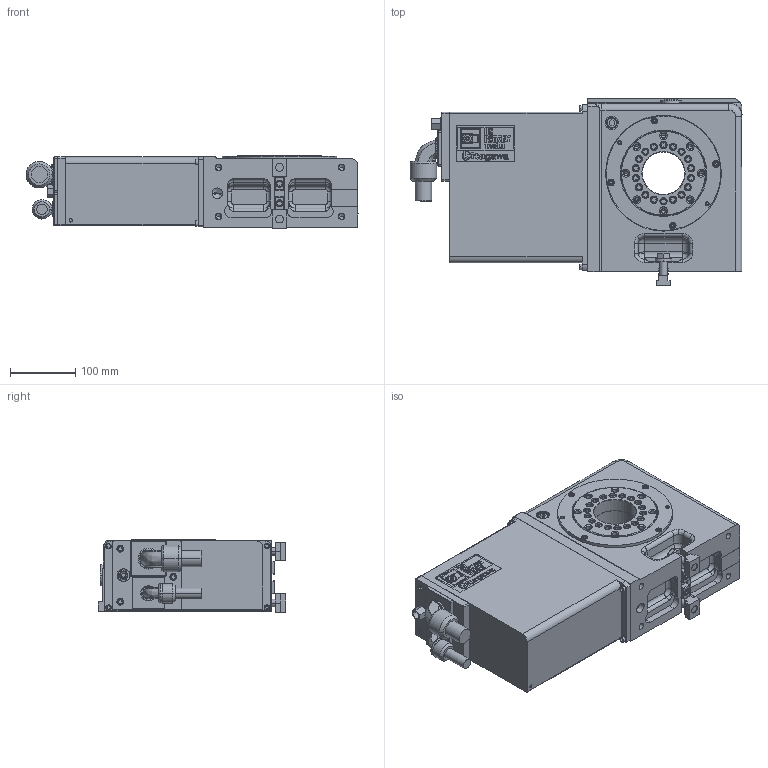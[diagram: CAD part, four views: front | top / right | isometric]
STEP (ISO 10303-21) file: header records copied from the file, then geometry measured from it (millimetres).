
FILE_DESCRIPTION (( 'STEP AP214' ), '1' );
FILE_NAME ('CK200LF.STEP', '2019-12-02T04:04:03', ( '' ), ( '' ), 'SwSTEP 2.0', 'SolidWorks 2017', '' );
FILE_SCHEMA (( 'AUTOMOTIVE_DESIGN' ));
Length unit declared in the file: millimetre
Products named in the file (21): CK200LF; B パーカ　M12×40; ワッシャ １２(61M4266320)VQ100; CK200LFホンタイ; キタガワシール; ケーブルN29ZS1650; ケーブルN29ZS2554; SMC KQ2E06-02; モータケース(図番無し)CK200LF_ﾃﾞﾌｫﾙﾄ<ﾏｼﾝ加工>; コネクタプレート(図番無し)CK200LF_ﾃﾞﾌｫﾙﾄ<ﾏｼﾝ加工>; ガイドブロック(61M4198752); CK200L00僋儈僞僥(61E5026970); テーブル(61E8309352)CKR200R00; チェックバルブ AKB01A-01S-×435; オイルゲージ 257; リベットメイバンPAD(61E4844381,61E4844371)CK160; シリンダ(61E2806300)CK200R00; シールリング(61E8300941)CKR200R00; ベース(61E1149144)CKR200L00_ﾃﾞﾌｫﾙﾄ<ﾏｼﾝ加工>; クランプキミタテ(61E473251)CK160D1; Tスロットナット１４１２
Assembly tree (22 placements, depth 4):
  CK200LF
    CK200LFホンタイ
      CK200L00僋儈僞僥(61E5026970)
        ベース(61E1149144)CKR200L00_ﾃﾞﾌｫﾙﾄ<ﾏｼﾝ加工>
        シールリング(61E8300941)CKR200R00
        シリンダ(61E2806300)CK200R00
        リベットメイバンPAD(61E4844381,61E4844371)CK160
        オイルゲージ 257
        チェックバルブ AKB01A-01S-×435
        テーブル(61E8309352)CKR200R00
      ガイドブロック(61M4198752)  x2
      コネクタプレート(図番無し)CK200LF_ﾃﾞﾌｫﾙﾄ<ﾏｼﾝ加工>
      モータケース(図番無し)CK200LF_ﾃﾞﾌｫﾙﾄ<ﾏｼﾝ加工>
      SMC KQ2E06-02
      ケーブルN29ZS2554
      ケーブルN29ZS1650
      キタガワシール
    クランプキミタテ(61E473251)CK160D1  x2
      ワッシャ １２(61M4266320)VQ100
      B パーカ　M12×40
      Tスロットナット１４１２
Bounding box: 507.4 x 287 x 111.25 mm (x, y, z)
Volume: 11030274.2 mm3; surface area: 798234.7 mm2
Topology: 21 solids, 21 shells, 3249 faces, 8377 edges, 5434 vertices
Faces by surface type: plane 2274, cylinder 655, cone 232, bspline 39, torus 33, sphere 16
Entity records: 110672 total; most frequent: CARTESIAN_POINT 19232, ORIENTED_EDGE 16310, DIRECTION 15869, EDGE_CURVE 8155, VECTOR 6471, LINE 6471, VERTEX_POINT 5332, AXIS2_PLACEMENT_3D 4699
